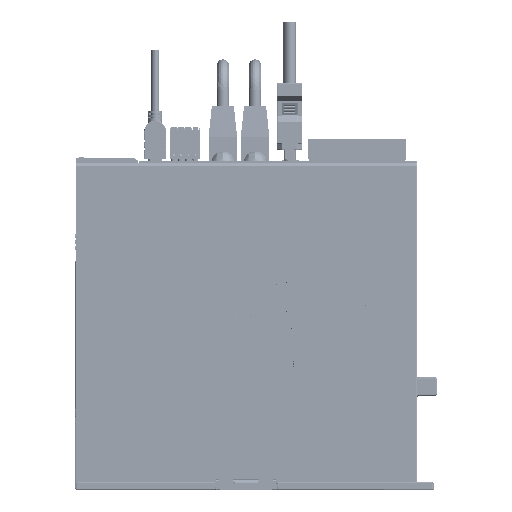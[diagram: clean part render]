
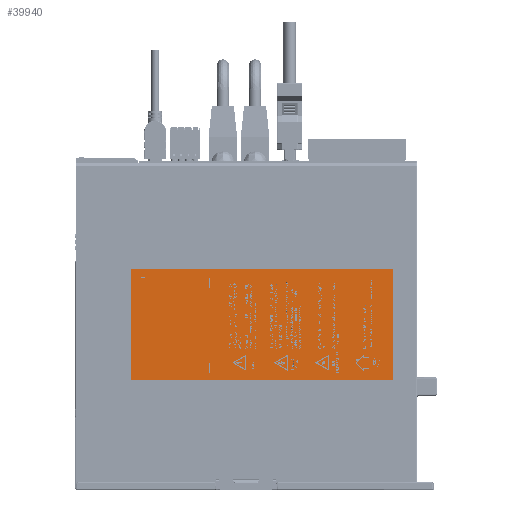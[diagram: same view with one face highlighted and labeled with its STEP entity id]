
A CAD part, left-side view. The second image highlights one B-rep face of the part: STEP entity #39940.
In plain terms, the highlighted planar face has unit normal (-1, 0, 0).
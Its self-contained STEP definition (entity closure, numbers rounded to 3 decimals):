
#4019=TRIMMED_CURVE($,#6820,(#844508),(#844509),.T.,.CARTESIAN.);
#4020=TRIMMED_CURVE($,#6821,(#844521),(#844522),.T.,.CARTESIAN.);
#4021=TRIMMED_CURVE($,#6822,(#844538),(#844539),.T.,.CARTESIAN.);
#6820=CIRCLE('',#450440,0.2);
#6821=CIRCLE('',#450441,0.2);
#6822=CIRCLE('',#450442,0.2);
#39940=ADVANCED_FACE('',(#65320),#424826,.T.);
#65320=FACE_OUTER_BOUND('',#92043,.T.);
#92043=EDGE_LOOP('',(#227217,#227218,#227219,#227220,#227221,#227222,#227223,
#227224));
#227217=ORIENTED_EDGE('',*,*,#294641,.F.);
#227218=ORIENTED_EDGE('',*,*,#295486,.T.);
#227219=ORIENTED_EDGE('',*,*,#294637,.F.);
#227220=ORIENTED_EDGE('',*,*,#294635,.T.);
#227221=ORIENTED_EDGE('',*,*,#294631,.F.);
#227222=ORIENTED_EDGE('',*,*,#294630,.T.);
#227223=ORIENTED_EDGE('',*,*,#294645,.F.);
#227224=ORIENTED_EDGE('',*,*,#294643,.T.);
#294630=EDGE_CURVE('',#404811,#404810,#4019,.T.);
#294631=EDGE_CURVE('',#404811,#404812,#359571,.T.);
#294635=EDGE_CURVE('',#404813,#404812,#4020,.T.);
#294637=EDGE_CURVE('',#404813,#404814,#359576,.T.);
#294641=EDGE_CURVE('',#404815,#404816,#359580,.T.);
#294643=EDGE_CURVE('',#404817,#404816,#4021,.T.);
#294645=EDGE_CURVE('',#404817,#404810,#359583,.T.);
#295486=EDGE_CURVE('',#404815,#404814,#360393,.T.);
#359571=B_SPLINE_CURVE_WITH_KNOTS('',1,(#844510,#844511),.UNSPECIFIED.,
 .F.,.F.,(2,2),(0.,128.6),.UNSPECIFIED.);
#359576=B_SPLINE_CURVE_WITH_KNOTS('',1,(#844525,#844526),.UNSPECIFIED.,
 .F.,.F.,(2,2),(0.,54.6),.UNSPECIFIED.);
#359580=B_SPLINE_CURVE_WITH_KNOTS('',1,(#844533,#844534),.UNSPECIFIED.,
 .F.,.F.,(2,2),(0.,128.6),.UNSPECIFIED.);
#359583=B_SPLINE_CURVE_WITH_KNOTS('',1,(#844542,#844543),.UNSPECIFIED.,
 .F.,.F.,(2,2),(0.,54.6),.UNSPECIFIED.);
#360393=B_SPLINE_CURVE_WITH_KNOTS('',4,(#846570,#846571,#846572,#846573,
#846574),.UNSPECIFIED.,.F.,.F.,(5,5),(0.,0.337),
 .UNSPECIFIED.);
#404810=VERTEX_POINT('',#834365);
#404811=VERTEX_POINT('',#834366);
#404812=VERTEX_POINT('',#834367);
#404813=VERTEX_POINT('',#834368);
#404814=VERTEX_POINT('',#834369);
#404815=VERTEX_POINT('',#834370);
#404816=VERTEX_POINT('',#834371);
#404817=VERTEX_POINT('',#834372);
#424826=PLANE('',#450271);
#450271=AXIS2_PLACEMENT_3D('',#830795,#478187,$);
#450440=AXIS2_PLACEMENT_3D($,#844507,#478413,#478414);
#450441=AXIS2_PLACEMENT_3D($,#844520,#478415,#478416);
#450442=AXIS2_PLACEMENT_3D($,#844537,#478417,#478418);
#478187=DIRECTION('',(-1.,0.,0.));
#478413=DIRECTION('',(-1.,0.,0.));
#478414=DIRECTION('',(0.,0.,1.));
#478415=DIRECTION('',(-1.,0.,0.));
#478416=DIRECTION('',(0.,-1.,0.));
#478417=DIRECTION('',(-1.,0.,0.));
#478418=DIRECTION('',(0.,1.,0.));
#830795=CARTESIAN_POINT('',(76.604,-124.955,30.973));
#834365=CARTESIAN_POINT('',(76.604,17.005,25.213));
#834366=CARTESIAN_POINT('',(76.604,16.805,25.413));
#834367=CARTESIAN_POINT('',(76.604,-111.795,25.413));
#834368=CARTESIAN_POINT('',(76.604,-111.995,25.213));
#834369=CARTESIAN_POINT('',(76.604,-111.995,-29.387));
#834370=CARTESIAN_POINT('',(76.604,-111.795,-29.587));
#834371=CARTESIAN_POINT('',(76.604,16.805,-29.587));
#834372=CARTESIAN_POINT('',(76.604,17.005,-29.387));
#844507=CARTESIAN_POINT('',(76.604,16.805,25.213));
#844508=CARTESIAN_POINT('',(76.604,16.805,25.413));
#844509=CARTESIAN_POINT('',(76.604,17.005,25.213));
#844510=CARTESIAN_POINT('',(76.604,16.805,25.413));
#844511=CARTESIAN_POINT('',(76.604,-111.795,25.413));
#844520=CARTESIAN_POINT('',(76.604,-111.795,25.213));
#844521=CARTESIAN_POINT('',(76.604,-111.995,25.213));
#844522=CARTESIAN_POINT('',(76.604,-111.795,25.413));
#844525=CARTESIAN_POINT('',(76.604,-111.995,25.213));
#844526=CARTESIAN_POINT('',(76.604,-111.995,-29.387));
#844533=CARTESIAN_POINT('',(76.604,-111.795,-29.587));
#844534=CARTESIAN_POINT('',(76.604,16.805,-29.587));
#844537=CARTESIAN_POINT('',(76.604,16.805,-29.387));
#844538=CARTESIAN_POINT('',(76.604,17.005,-29.387));
#844539=CARTESIAN_POINT('',(76.604,16.805,-29.587));
#844542=CARTESIAN_POINT('',(76.604,17.005,-29.387));
#844543=CARTESIAN_POINT('',(76.604,17.005,25.213));
#846570=CARTESIAN_POINT('',(76.604,-111.795,-29.587));
#846571=CARTESIAN_POINT('',(76.604,-111.873,-29.587));
#846572=CARTESIAN_POINT('',(76.604,-111.953,-29.545));
#846573=CARTESIAN_POINT('',(76.604,-111.995,-29.466));
#846574=CARTESIAN_POINT('',(76.604,-111.995,-29.387));
